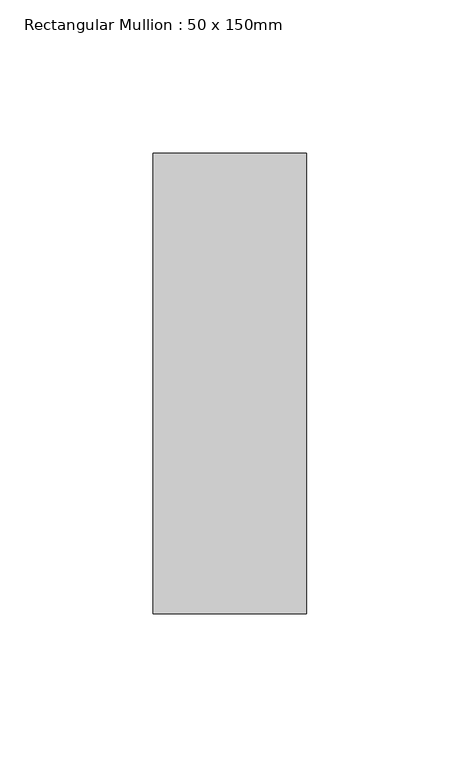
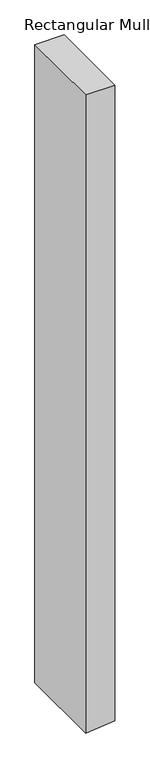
"""IFC4 building model written with IfcOpenShell, lengths in millimetres: member geometry, Rectangular Mullion : 50 x 150mm."""

from ifc_helpers import new_model, si_unit, frame, origin, place, context, project, spatial, polyline, outline, extrude, source, transform, mapped, element, save


def rectangular_mullion_50_x_150mm_c42fb8b3(model_context):
    return source(origin(), model_context, "Body", "SweptSolid", [
        extrude(outline(polyline([(0.0, 25.0), (0.0, -25.0), (-1154.617448, -25.0), (-1152.6066809, -5.0022633), (-1149.5899613, 25.0), (0.0, 25.0)])), frame((0.0, -75.0, 0.0), z_axis=(0.0, 1.0, 0.0), x_axis=(0.0, 0.0, 1.0)), (0.0, 0.0, 1.0), 150.0),
    ])


if __name__ == "__main__":
    model = new_model("IFC4")
    model_context = context("Model", 3, world=origin())
    ifc_project = project(units=[si_unit("LENGTHUNIT", "METRE", prefix="MILLI")], contexts=[model_context])
    site = spatial("IfcSite", under=ifc_project)
    building = spatial("IfcBuilding", under=site)
    placement = place(None, origin())
    rectangular_mullion_50_x_150mm_shape = rectangular_mullion_50_x_150mm_c42fb8b3(model_context)
    element("IfcMember", 1, ObjectType="Rectangular Mullion : 50 x 150mm", at=placement, inside=building, context=model_context, shape_type="MappedRepresentation", body=[
        mapped(rectangular_mullion_50_x_150mm_shape, transform((0.0, 0.0, 0.0), x_axis=(1.0, 0.0, 0.0), y_axis=(0.0, 1.0, 0.0), z_axis=(0.0, 0.0, 1.0))),
    ])
    save(model, "model.ifc")
